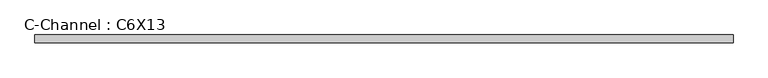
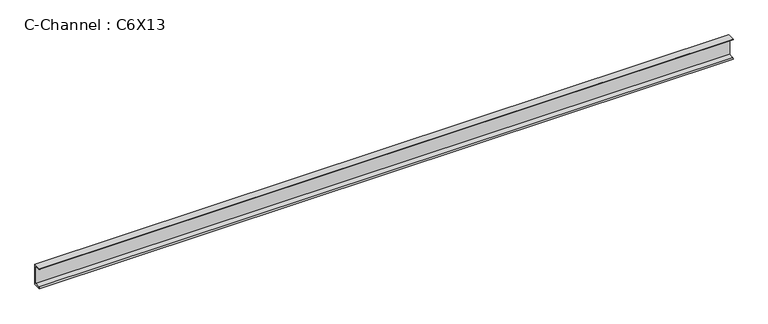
"""IFC4 building model written with IfcOpenShell, lengths in millimetres: beam geometry, C-Channel : C6X13."""

from ifc_helpers import new_model, si_unit, point, frame, frame_2d, origin, place, context, project, spatial, polyline, circle_curve, trimmed, segment, composite_curve, outline, extrude, source, transform, mapped, element, save


def c_channel_c6x13_4940aca9(model_context):
    return source(origin(), model_context, "Body", "SweptSolid", [
        extrude(outline(composite_curve([segment(polyline([(13.0556, 76.2), (13.0556, -76.2), (-41.8084, -76.2)]), True, "CONTINUOUS"), segment(trimmed(circle_curve(frame_2d((-33.0962, -76.2)), 8.7122), [point((-41.8084, -76.2))], [point((-33.0962, -67.4878))], False, "CARTESIAN"), True, "CONTINUOUS"), segment(polyline([(-33.0962, -67.4878), (1.9558, -61.9361086), (1.9558, 61.9361086), (-33.0962, 67.4878)]), True, "CONTINUOUS"), segment(trimmed(circle_curve(frame_2d((-33.0962, 76.2)), 8.7122), [point((-33.0962, 67.4878))], [point((-41.8084, 76.2))], False, "CARTESIAN"), True, "CONTINUOUS"), segment(polyline([(-41.8084, 76.2), (13.0556, 76.2)]), True, "CONTINUOUS")], self_intersect=False)), frame((-2487.3002291, 0.0, 0.0), z_axis=(1.0, 0.0, 0.0), x_axis=(0.0, 1.0, 0.0)), (0.0, 0.0, 1.0), 4974.5651583),
    ])


if __name__ == "__main__":
    model = new_model("IFC4")
    model_context = context("Model", 3, world=origin())
    ifc_project = project(units=[si_unit("LENGTHUNIT", "METRE", prefix="MILLI")], contexts=[model_context])
    site = spatial("IfcSite", under=ifc_project)
    building = spatial("IfcBuilding", under=site)
    placement = place(None, origin())
    c_channel_c6x13_shape = c_channel_c6x13_4940aca9(model_context)
    element("IfcBeam", 1, ObjectType="C-Channel : C6X13", at=placement, inside=building, context=model_context, shape_type="MappedRepresentation", body=[
        mapped(c_channel_c6x13_shape, transform((0.0, 0.0, 0.0), x_axis=(1.0, 0.0, 0.0), y_axis=(0.0, 1.0, 0.0), z_axis=(0.0, 0.0, 1.0))),
    ])
    save(model, "model.ifc")
